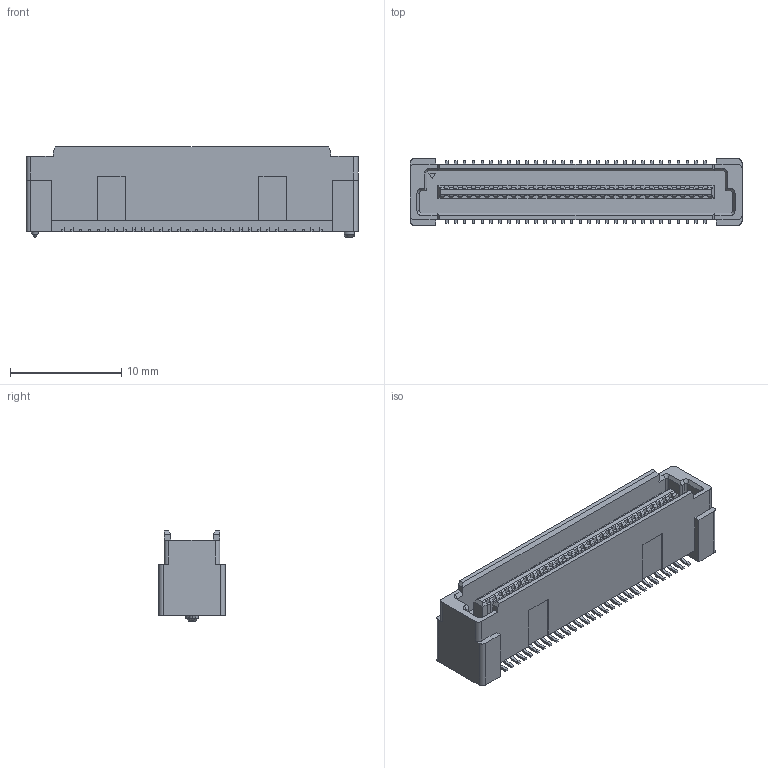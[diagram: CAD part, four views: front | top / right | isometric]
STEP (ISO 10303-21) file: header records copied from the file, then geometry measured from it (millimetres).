
FILE_DESCRIPTION((''),'2;1');
FILE_NAME('C-6123001-2','2020-03-13T05:25:46',('workeradm'),('TE Connectivity Ltd.'),'CREO PARAMETRIC BY PTC INC, 2019292','CREO PARAMETRIC BY PTC INC, 2019292','');
FILE_SCHEMA(('AUTOMOTIVE_DESIGN { 1 0 10303 214 1 1 1 1 }'));
Length unit declared in the file: millimetre
Products named in the file (1): C-6123001-2
Bounding box: 29.8 x 6 x 8.1 mm (x, y, z)
Volume: 787.7 mm3; surface area: 1339.4 mm2
Topology: 1 solids, 1 shells, 1199 faces, 3381 edges, 2248 vertices
Faces by surface type: plane 1167, cylinder 20, cone 12
Entity records: 38443 total; most frequent: CARTESIAN_POINT 6906, ORIENTED_EDGE 6762, DIRECTION 5935, EDGE_CURVE 3381, VECTOR 3201, LINE 3201, VERTEX_POINT 2248, AXIS2_PLACEMENT_3D 1367
